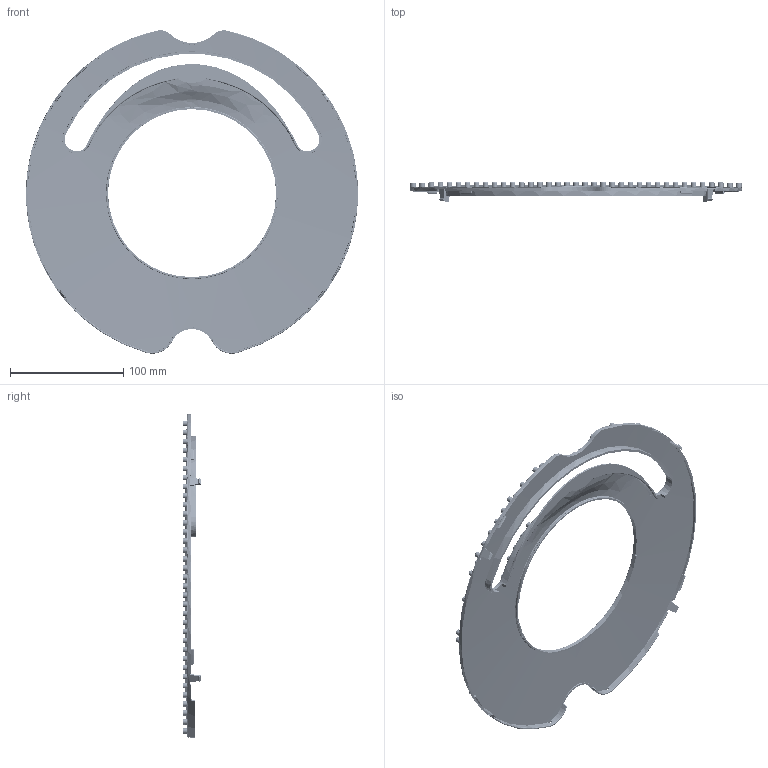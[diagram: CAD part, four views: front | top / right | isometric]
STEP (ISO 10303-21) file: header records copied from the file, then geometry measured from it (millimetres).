
FILE_DESCRIPTION((''),'2;1');
FILE_NAME('LEGO_R600_COVER','2014-09-17T',('areichel'),('iRobot'),'PRO/ENGINEER BY PARAMETRIC TECHNOLOGY CORPORATION, 2014090','PRO/ENGINEER BY PARAMETRIC TECHNOLOGY CORPORATION, 2014090','');
FILE_SCHEMA(('CONFIG_CONTROL_DESIGN'));
Products named in the file (1): LEGO_R600_COVER
Bounding box: 293.53 x 16.66 x 285.9 mm (x, y, z)
Volume: 129037.9 mm3; surface area: 131802.8 mm2
Topology: 1 solids, 1 shells, 3152 faces, 6611 edges, 3993 vertices
Faces by surface type: torus 1169, cylinder 1152, plane 682, cone 82, bspline 51, sphere 14, extrusion 2
Entity records: 96310 total; most frequent: CARTESIAN_POINT 28976, DIRECTION 15036, ORIENTED_EDGE 13218, AXIS2_PLACEMENT_3D 6863, EDGE_CURVE 6609, VERTEX_POINT 3993, CIRCLE 3764, EDGE_LOOP 3694
